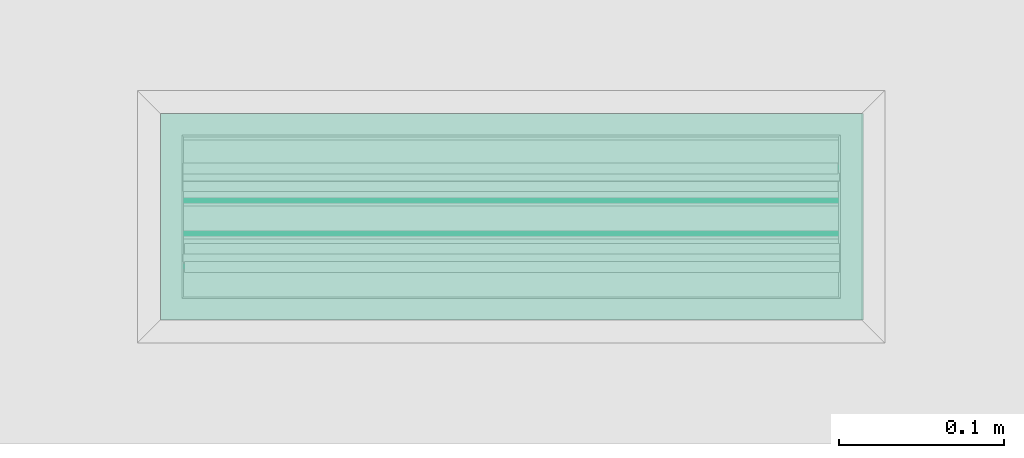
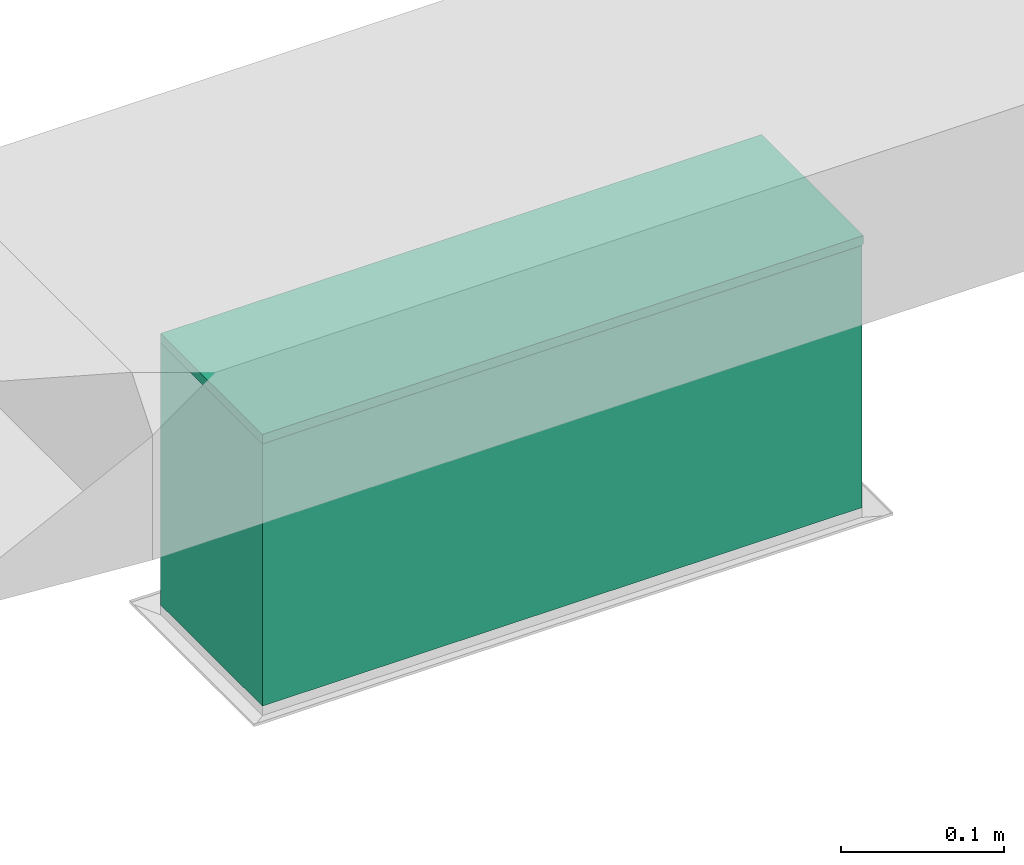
# One storey, part 33 of 60: 1 flow fitting, 1 flow segment.
"""IFC2X3 building model written with IfcOpenShell, lengths in millimetres."""

from ifc_helpers import new_model, entity, si_unit, converted_unit, derived_unit, direction, frame, origin, origin_2d_with_axis, place, context, subcontext, project, spatial, polyline, rectangle, outline, extrude, source, transform, mapped, material, type_object, type_shapes, element, save


model = new_model("IFC2X3")

# Units and contexts
model_context = context("Model", 3, precision=0.01, world=origin(), true_north=direction((6.123233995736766e-17, 1.0)))
body_context = subcontext(model_context, "Body", "Model", "MODEL_VIEW")
ifc_project = project(units=[si_unit("LENGTHUNIT", "METRE", prefix="MILLI"), converted_unit("PLANEANGLEUNIT", "DEGREE", entity("IfcPlaneAngleMeasure", 0.017453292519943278), si_unit("PLANEANGLEUNIT", "RADIAN"), dimensions=[0, 0, 0, 0, 0, 0, 0]), si_unit("AREAUNIT", "SQUARE_METRE"), derived_unit("THERMALTRANSMITTANCEUNIT", [(si_unit("MASSUNIT", "GRAM", prefix="KILO"), 1), (si_unit("THERMODYNAMICTEMPERATUREUNIT", "KELVIN"), -1), (si_unit("TIMEUNIT", "SECOND"), -3)])], contexts=[model_context])

# Site, building, storey
site_placement = place(None, origin())
site = spatial("IfcSite", under=ifc_project, at=site_placement, Name="Default", CompositionType="ELEMENT")
building_placement = place(site_placement, origin())
building = spatial("IfcBuilding", under=site, at=building_placement, Name="Praça Pedro II, 1301 - Centro (Sul), Teresina - PI, 64001-100", CompositionType="ELEMENT")
storey_placement = place(building_placement, frame((0.0, 0.0, 6040.0)))
storey = spatial("IfcBuildingStorey", under=building, at=storey_placement, Name="2PAV", CompositionType="ELEMENT", Elevation=6040.0)

# Flow segment
duct_segment_type = type_object("IfcDuctSegmentType", Name="Duto retangular:Raios cotovelos / torneiras", PredefinedType="NOTDEFINED")
flow_segment_placement = place(storey_placement, origin())
element("IfcFlowSegment", 1, at=flow_segment_placement, inside=storey, type_object=duct_segment_type, Name="Duto retangular:Raios cotovelos / torneiras", ObjectType="Duto retangular:Raios cotovelos / torneiras", context=body_context, shape_type="SweptSolid", body=[
    extrude(rectangle(XDim=125.00000000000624, YDim=424.9999999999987, at=origin_2d_with_axis()), frame((18355.45883975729, -51911.56108325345, 2500.0), z_axis=(0.0, 0.0, 1.0), x_axis=(0.0, 1.0, 0.0)), (0.0, 0.0, 1.0), 196.5000000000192),
])

# Flow fitting
ifc_material = material(Name="<Unnamed>")
duct_fitting_type = type_object("IfcDuctFittingType", Name="M_Rectangular Tap - Beveled:Standard", PredefinedType="NOTDEFINED", material=ifc_material)
shared_shape = source(origin(), body_context, "Body", "SweptSolid", [
    extrude(outline(polyline([(-3.0383999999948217, -255.4), (4.057600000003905, -255.4), (4.057600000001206, 170.60000000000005), (-2.0383999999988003, 170.60000000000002), (-3.038399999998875, 169.59999999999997), (-3.0383999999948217, -255.4)])), frame((-2.0383999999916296, -42.90000000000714, -62.499999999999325), z_axis=(0.0, 0.0, 1.0), x_axis=(-1.0, 0.0, 0.0)), (0.0, 0.0, 1.0), 124.99999999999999),
])
type_shapes(duct_fitting_type, [shared_shape])
flow_fitting_placement = place(storey_placement, frame((18355.458839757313, -51911.56108325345, 2697.500000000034), z_axis=(0.0, 1.0, 0.0), x_axis=(0.0, 0.0, -1.0)))
element("IfcFlowFitting", 2, at=flow_fitting_placement, inside=storey, type_object=duct_fitting_type, material=ifc_material, Name="M_Rectangular Tap - Beveled:Standard", ObjectType="M_Rectangular Tap - Beveled:Standard", context=body_context, shape_type="MappedRepresentation", body=[
    mapped(shared_shape, transform((0.0, 0.0, 0.0), scale=1.0)),
])

save(model, "model.ifc")
